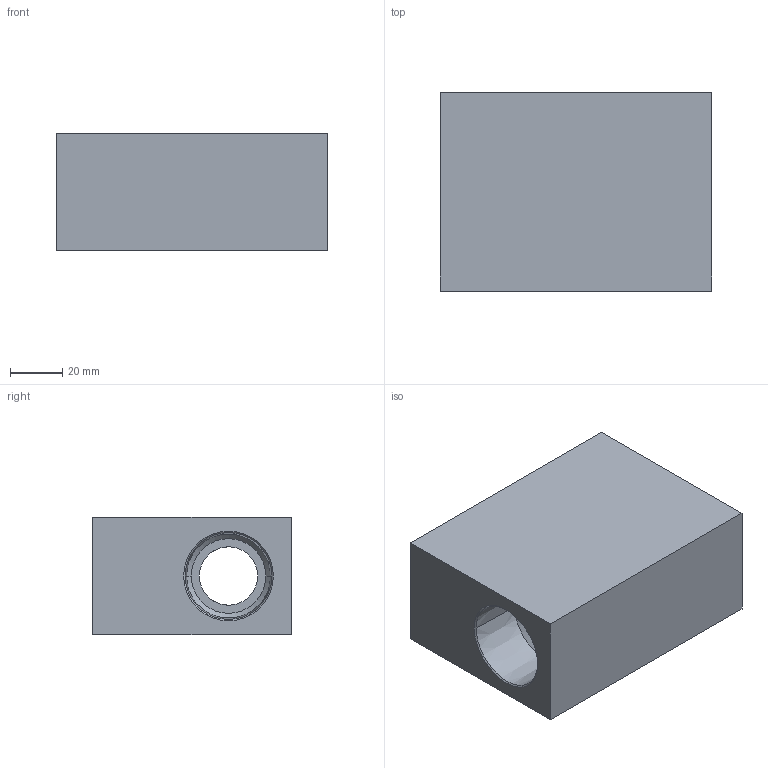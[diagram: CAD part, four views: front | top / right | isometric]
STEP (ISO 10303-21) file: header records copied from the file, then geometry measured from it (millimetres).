
FILE_DESCRIPTION (( 'STEP AP203' ), '1' );
FILE_NAME ('FTPTS16.STEP', '2026-06-26T01:46:00', ( 'USER' ), ( '' ), 'SwSTEP 2.0', 'SolidWorks 2023', '' );
FILE_SCHEMA (( 'CONFIG_CONTROL_DESIGN' ));
Length unit declared in the file: millimetre
Products named in the file (1): FTPTS16
Bounding box: 104 x 76 x 45 mm (x, y, z)
Volume: 265763.6 mm3; surface area: 42586.4 mm2
Topology: 1 solids, 1 shells, 37 faces, 87 edges, 54 vertices
Faces by surface type: cone 18, cylinder 10, plane 9
Entity records: 1152 total; most frequent: DIRECTION 201, CARTESIAN_POINT 191, ORIENTED_EDGE 174, EDGE_CURVE 87, AXIS2_PLACEMENT_3D 80, VERTEX_POINT 54, EDGE_LOOP 43, CIRCLE 42
